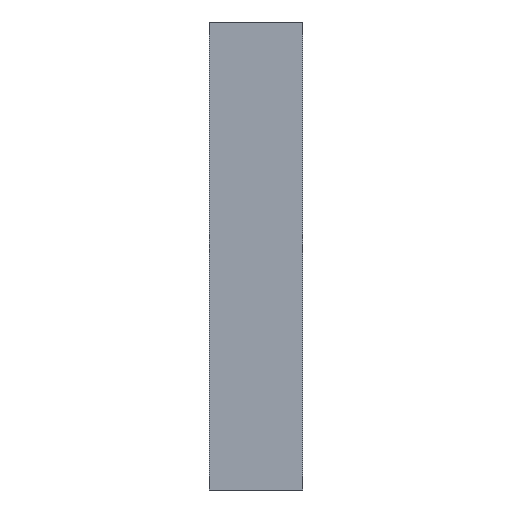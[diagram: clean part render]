
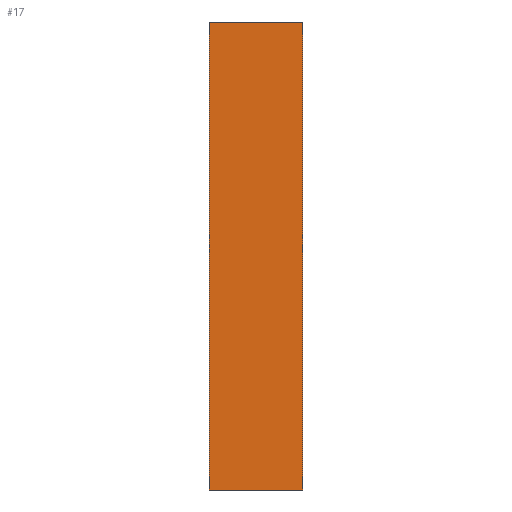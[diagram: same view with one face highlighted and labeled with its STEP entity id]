
A CAD part, left-side view. The second image highlights one B-rep face of the part: STEP entity #17.
In plain terms, the highlighted planar face has unit normal (-1, 0, 0).
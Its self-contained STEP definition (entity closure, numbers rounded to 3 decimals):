
#17 = ADVANCED_FACE('',(#18),#32,.F.);
#18 = FACE_BOUND('',#19,.F.);
#19 = EDGE_LOOP('',(#20,#55,#83,#111));
#20 = ORIENTED_EDGE('',*,*,#21,.F.);
#21 = EDGE_CURVE('',#22,#24,#26,.T.);
#22 = VERTEX_POINT('',#23);
#23 = CARTESIAN_POINT('',(-352.,-164.913,-43.));
#24 = VERTEX_POINT('',#25);
#25 = CARTESIAN_POINT('',(-352.,-164.913,-3.));
#26 = SURFACE_CURVE('',#27,(#31,#43),.PCURVE_S1.);
#27 = LINE('',#28,#29);
#28 = CARTESIAN_POINT('',(-352.,-164.913,-43.));
#29 = VECTOR('',#30,1.);
#30 = DIRECTION('',(0.,0.,1.));
#31 = PCURVE('',#32,#37);
#32 = PLANE('',#33);
#33 = AXIS2_PLACEMENT_3D('',#34,#35,#36);
#34 = CARTESIAN_POINT('',(-352.,-164.913,-43.));
#35 = DIRECTION('',(1.,0.,-0.));
#36 = DIRECTION('',(0.,0.,1.));
#37 = DEFINITIONAL_REPRESENTATION('',(#38),#42);
#38 = LINE('',#39,#40);
#39 = CARTESIAN_POINT('',(0.,0.));
#40 = VECTOR('',#41,1.);
#41 = DIRECTION('',(1.,0.));
#42 = ( GEOMETRIC_REPRESENTATION_CONTEXT(2) 
PARAMETRIC_REPRESENTATION_CONTEXT() REPRESENTATION_CONTEXT('2D SPACE',''
  ) );
#43 = PCURVE('',#44,#49);
#44 = PLANE('',#45);
#45 = AXIS2_PLACEMENT_3D('',#46,#47,#48);
#46 = CARTESIAN_POINT('',(-352.,-164.913,-43.));
#47 = DIRECTION('',(-0.,1.,0.));
#48 = DIRECTION('',(0.,0.,1.));
#49 = DEFINITIONAL_REPRESENTATION('',(#50),#54);
#50 = LINE('',#51,#52);
#51 = CARTESIAN_POINT('',(0.,0.));
#52 = VECTOR('',#53,1.);
#53 = DIRECTION('',(1.,0.));
#54 = ( GEOMETRIC_REPRESENTATION_CONTEXT(2) 
PARAMETRIC_REPRESENTATION_CONTEXT() REPRESENTATION_CONTEXT('2D SPACE',''
  ) );
#55 = ORIENTED_EDGE('',*,*,#56,.T.);
#56 = EDGE_CURVE('',#22,#57,#59,.T.);
#57 = VERTEX_POINT('',#58);
#58 = CARTESIAN_POINT('',(-352.,-156.913,-43.));
#59 = SURFACE_CURVE('',#60,(#64,#71),.PCURVE_S1.);
#60 = LINE('',#61,#62);
#61 = CARTESIAN_POINT('',(-352.,-164.913,-43.));
#62 = VECTOR('',#63,1.);
#63 = DIRECTION('',(-0.,1.,0.));
#64 = PCURVE('',#32,#65);
#65 = DEFINITIONAL_REPRESENTATION('',(#66),#70);
#66 = LINE('',#67,#68);
#67 = CARTESIAN_POINT('',(0.,0.));
#68 = VECTOR('',#69,1.);
#69 = DIRECTION('',(0.,-1.));
#70 = ( GEOMETRIC_REPRESENTATION_CONTEXT(2) 
PARAMETRIC_REPRESENTATION_CONTEXT() REPRESENTATION_CONTEXT('2D SPACE',''
  ) );
#71 = PCURVE('',#72,#77);
#72 = PLANE('',#73);
#73 = AXIS2_PLACEMENT_3D('',#74,#75,#76);
#74 = CARTESIAN_POINT('',(-352.,-164.913,-43.));
#75 = DIRECTION('',(0.,0.,1.));
#76 = DIRECTION('',(1.,0.,-0.));
#77 = DEFINITIONAL_REPRESENTATION('',(#78),#82);
#78 = LINE('',#79,#80);
#79 = CARTESIAN_POINT('',(0.,0.));
#80 = VECTOR('',#81,1.);
#81 = DIRECTION('',(0.,1.));
#82 = ( GEOMETRIC_REPRESENTATION_CONTEXT(2) 
PARAMETRIC_REPRESENTATION_CONTEXT() REPRESENTATION_CONTEXT('2D SPACE',''
  ) );
#83 = ORIENTED_EDGE('',*,*,#84,.T.);
#84 = EDGE_CURVE('',#57,#85,#87,.T.);
#85 = VERTEX_POINT('',#86);
#86 = CARTESIAN_POINT('',(-352.,-156.913,-3.));
#87 = SURFACE_CURVE('',#88,(#92,#99),.PCURVE_S1.);
#88 = LINE('',#89,#90);
#89 = CARTESIAN_POINT('',(-352.,-156.913,-43.));
#90 = VECTOR('',#91,1.);
#91 = DIRECTION('',(0.,0.,1.));
#92 = PCURVE('',#32,#93);
#93 = DEFINITIONAL_REPRESENTATION('',(#94),#98);
#94 = LINE('',#95,#96);
#95 = CARTESIAN_POINT('',(0.,-8.));
#96 = VECTOR('',#97,1.);
#97 = DIRECTION('',(1.,0.));
#98 = ( GEOMETRIC_REPRESENTATION_CONTEXT(2) 
PARAMETRIC_REPRESENTATION_CONTEXT() REPRESENTATION_CONTEXT('2D SPACE',''
  ) );
#99 = PCURVE('',#100,#105);
#100 = PLANE('',#101);
#101 = AXIS2_PLACEMENT_3D('',#102,#103,#104);
#102 = CARTESIAN_POINT('',(-352.,-156.913,-43.));
#103 = DIRECTION('',(-0.,1.,0.));
#104 = DIRECTION('',(0.,0.,1.));
#105 = DEFINITIONAL_REPRESENTATION('',(#106),#110);
#106 = LINE('',#107,#108);
#107 = CARTESIAN_POINT('',(0.,0.));
#108 = VECTOR('',#109,1.);
#109 = DIRECTION('',(1.,0.));
#110 = ( GEOMETRIC_REPRESENTATION_CONTEXT(2) 
PARAMETRIC_REPRESENTATION_CONTEXT() REPRESENTATION_CONTEXT('2D SPACE',''
  ) );
#111 = ORIENTED_EDGE('',*,*,#112,.F.);
#112 = EDGE_CURVE('',#24,#85,#113,.T.);
#113 = SURFACE_CURVE('',#114,(#118,#125),.PCURVE_S1.);
#114 = LINE('',#115,#116);
#115 = CARTESIAN_POINT('',(-352.,-164.913,-3.));
#116 = VECTOR('',#117,1.);
#117 = DIRECTION('',(-0.,1.,0.));
#118 = PCURVE('',#32,#119);
#119 = DEFINITIONAL_REPRESENTATION('',(#120),#124);
#120 = LINE('',#121,#122);
#121 = CARTESIAN_POINT('',(40.,0.));
#122 = VECTOR('',#123,1.);
#123 = DIRECTION('',(0.,-1.));
#124 = ( GEOMETRIC_REPRESENTATION_CONTEXT(2) 
PARAMETRIC_REPRESENTATION_CONTEXT() REPRESENTATION_CONTEXT('2D SPACE',''
  ) );
#125 = PCURVE('',#126,#131);
#126 = PLANE('',#127);
#127 = AXIS2_PLACEMENT_3D('',#128,#129,#130);
#128 = CARTESIAN_POINT('',(-352.,-164.913,-3.));
#129 = DIRECTION('',(0.,0.,1.));
#130 = DIRECTION('',(1.,0.,-0.));
#131 = DEFINITIONAL_REPRESENTATION('',(#132),#136);
#132 = LINE('',#133,#134);
#133 = CARTESIAN_POINT('',(0.,0.));
#134 = VECTOR('',#135,1.);
#135 = DIRECTION('',(0.,1.));
#136 = ( GEOMETRIC_REPRESENTATION_CONTEXT(2) 
PARAMETRIC_REPRESENTATION_CONTEXT() REPRESENTATION_CONTEXT('2D SPACE',''
  ) );
